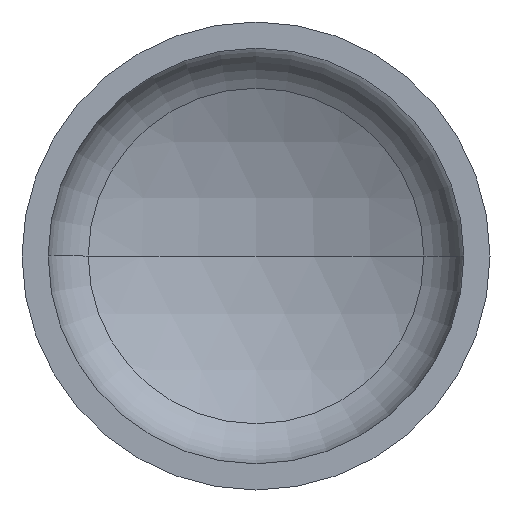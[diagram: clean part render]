
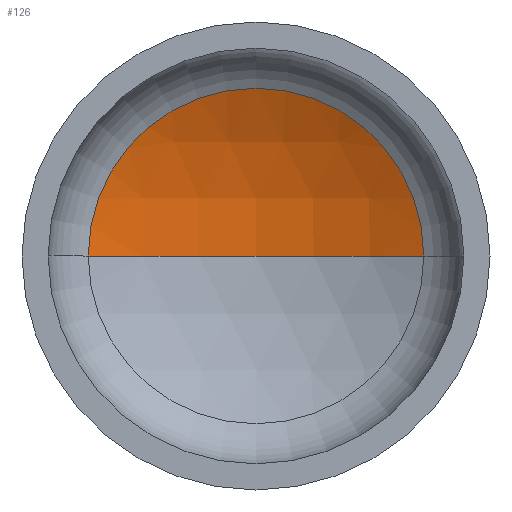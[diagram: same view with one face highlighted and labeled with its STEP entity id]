
A CAD part, front view. The second image highlights one B-rep face of the part: STEP entity #126.
In plain terms, the highlighted spherical face has radius 1600 mm.
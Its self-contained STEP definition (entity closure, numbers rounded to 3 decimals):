
#1 = AXIS2_PLACEMENT_3D ( 'NONE', #387, #159, #350 ) ;
#12 = AXIS2_PLACEMENT_3D ( 'NONE', #274, #277, #409 ) ;
#38 = VERTEX_POINT ( 'NONE', #283 ) ;
#40 = AXIS2_PLACEMENT_3D ( 'NONE', #306, #297, #294 ) ;
#92 = SPHERICAL_SURFACE ( 'NONE', #40, 1600. ) ;
#120 = DIRECTION ( 'NONE',  ( 0., 0., 1. ) ) ;
#126 = ADVANCED_FACE ( 'NONE', ( #248 ), #92, .F. ) ;
#130 = VERTEX_POINT ( 'NONE', #207 ) ;
#139 = ORIENTED_EDGE ( 'NONE', *, *, #333, .T. ) ;
#159 = DIRECTION ( 'NONE',  ( 0., 0., -1. ) ) ;
#168 = VERTEX_POINT ( 'NONE', #187 ) ;
#178 = EDGE_LOOP ( 'NONE', ( #402, #186, #139 ) ) ;
#186 = ORIENTED_EDGE ( 'NONE', *, *, #376, .T. ) ;
#187 = CARTESIAN_POINT ( 'NONE',  ( 716.899, 352.141, 0. ) ) ;
#207 = CARTESIAN_POINT ( 'NONE',  ( 0., 521.737, 0. ) ) ;
#209 = CIRCLE ( 'NONE', #1, 1600. ) ;
#248 = FACE_OUTER_BOUND ( 'NONE', #178, .T. ) ;
#274 = CARTESIAN_POINT ( 'NONE',  ( 0., 352.141, 0. ) ) ;
#277 = DIRECTION ( 'NONE',  ( 0., -1., 0. ) ) ;
#283 = CARTESIAN_POINT ( 'NONE',  ( -716.899, 352.141, 0. ) ) ;
#286 = CARTESIAN_POINT ( 'NONE',  ( 0., -1078.263, 0. ) ) ;
#294 = DIRECTION ( 'NONE',  ( -1., 0., 0. ) ) ;
#297 = DIRECTION ( 'NONE',  ( 0., 0., -1. ) ) ;
#306 = CARTESIAN_POINT ( 'NONE',  ( 0., -1078.263, 0. ) ) ;
#333 = EDGE_CURVE ( 'NONE', #168, #38, #362, .T. ) ;
#350 = DIRECTION ( 'NONE',  ( -1., 0., 0. ) ) ;
#362 = CIRCLE ( 'NONE', #12, 716.899 ) ;
#368 = DIRECTION ( 'NONE',  ( 1., 0., 0. ) ) ;
#375 = EDGE_CURVE ( 'NONE', #130, #38, #393, .T. ) ;
#376 = EDGE_CURVE ( 'NONE', #130, #168, #209, .T. ) ;
#387 = CARTESIAN_POINT ( 'NONE',  ( 0., -1078.263, 0. ) ) ;
#393 = CIRCLE ( 'NONE', #403, 1600. ) ;
#402 = ORIENTED_EDGE ( 'NONE', *, *, #375, .F. ) ;
#403 = AXIS2_PLACEMENT_3D ( 'NONE', #286, #120, #368 ) ;
#409 = DIRECTION ( 'NONE',  ( 1., 0., 0. ) ) ;
